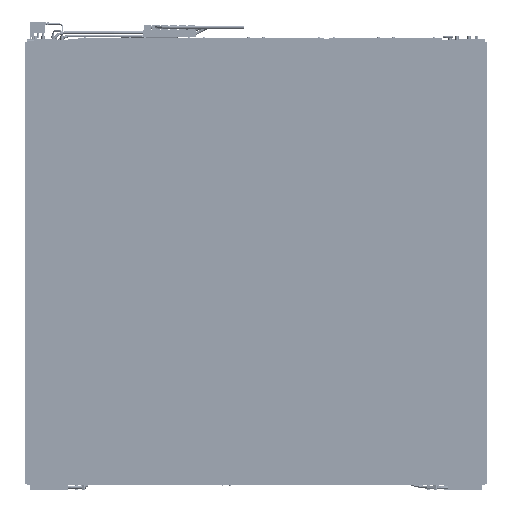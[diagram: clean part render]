
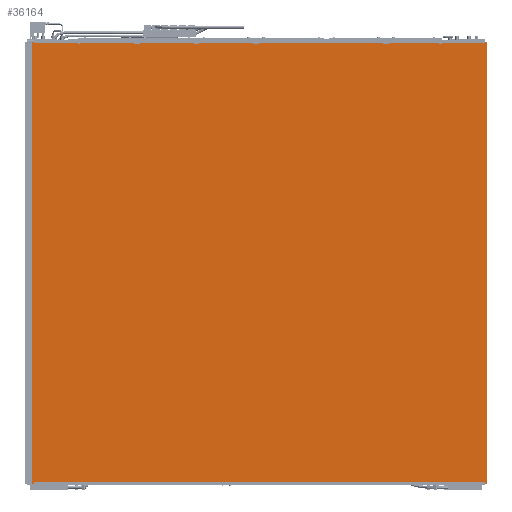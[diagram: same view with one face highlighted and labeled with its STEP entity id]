
A CAD part, front view. The second image highlights one B-rep face of the part: STEP entity #36164.
In plain terms, the highlighted planar face has unit normal (0, -1, 0).
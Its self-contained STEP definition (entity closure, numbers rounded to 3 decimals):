
#36164=ADVANCED_FACE('',(#52540),#44924,.T.);
#44924=PLANE('',#202907);
#52540=FACE_OUTER_BOUND('',#64221,.T.);
#64221=EDGE_LOOP('',(#98436,#98437,#98438,#98439));
#98436=ORIENTED_EDGE('',*,*,#150718,.F.);
#98437=ORIENTED_EDGE('',*,*,#150719,.F.);
#98438=ORIENTED_EDGE('',*,*,#150720,.F.);
#98439=ORIENTED_EDGE('',*,*,#150721,.F.);
#129537=VERTEX_POINT('',#306057);
#129538=VERTEX_POINT('',#306058);
#129539=VERTEX_POINT('',#306060);
#129540=VERTEX_POINT('',#306062);
#150718=EDGE_CURVE('',#129537,#129538,#169816,.T.);
#150719=EDGE_CURVE('',#129539,#129537,#169817,.T.);
#150720=EDGE_CURVE('',#129540,#129539,#169818,.T.);
#150721=EDGE_CURVE('',#129538,#129540,#169819,.T.);
#169816=LINE('',#306056,#184784);
#169817=LINE('',#306059,#184785);
#169818=LINE('',#306061,#184786);
#169819=LINE('',#306063,#184787);
#184784=VECTOR('',#238050,1.);
#184785=VECTOR('',#238051,1.);
#184786=VECTOR('',#238052,1.);
#184787=VECTOR('',#238053,1.);
#202907=AXIS2_PLACEMENT_3D('',#306064,#238054,#238055);
#238050=DIRECTION('',(-1.,0.,0.));
#238051=DIRECTION('',(0.,0.,-1.));
#238052=DIRECTION('',(1.,0.,0.));
#238053=DIRECTION('',(0.,0.,1.));
#238054=DIRECTION('',(0.,-1.,0.));
#238055=DIRECTION('',(1.,0.,0.));
#306056=CARTESIAN_POINT('',(1388.7,-7364.3,4085.5));
#306057=CARTESIAN_POINT('',(2673.7,-7364.3,4085.5));
#306058=CARTESIAN_POINT('',(103.7,-7364.3,4085.5));
#306059=CARTESIAN_POINT('',(2673.7,-7364.3,5333.5));
#306060=CARTESIAN_POINT('',(2673.7,-7364.3,6581.5));
#306061=CARTESIAN_POINT('',(1388.7,-7364.3,6581.5));
#306062=CARTESIAN_POINT('',(103.7,-7364.3,6581.5));
#306063=CARTESIAN_POINT('',(103.7,-7364.3,5333.5));
#306064=CARTESIAN_POINT('',(103.7,-7364.3,4085.5));
